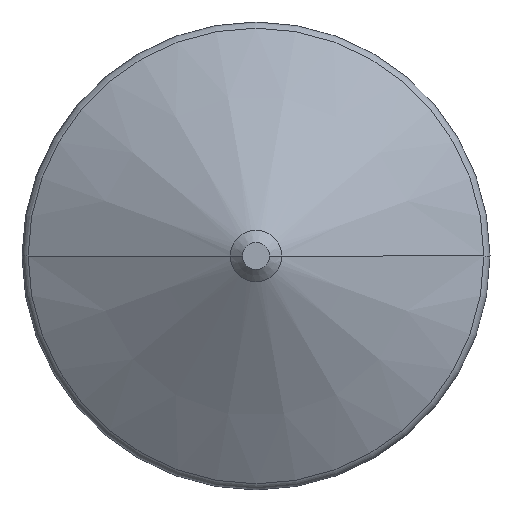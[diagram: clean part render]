
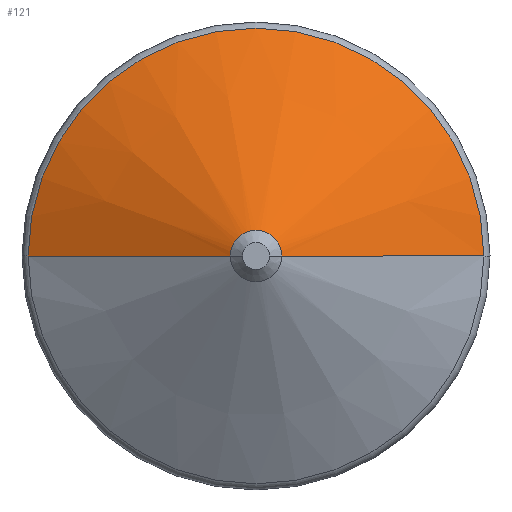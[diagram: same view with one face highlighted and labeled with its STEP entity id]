
A CAD part, front view. The second image highlights one B-rep face of the part: STEP entity #121.
In plain terms, the highlighted conical face has half-angle 60 degrees and reference radius 0.42 mm.
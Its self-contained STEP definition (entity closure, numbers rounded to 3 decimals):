
#15 = DIRECTION ( 'NONE',  ( 0., 1., 0. ) ) ;
#22 = VERTEX_POINT ( 'NONE', #64 ) ;
#28 = CARTESIAN_POINT ( 'NONE',  ( 0., -7.958, 0. ) ) ;
#43 = EDGE_CURVE ( 'NONE', #302, #270, #158, .T. ) ;
#64 = CARTESIAN_POINT ( 'NONE',  ( -3.71, -6.058, 0. ) ) ;
#67 = EDGE_CURVE ( 'NONE', #71, #22, #549, .T. ) ;
#71 = VERTEX_POINT ( 'NONE', #225 ) ;
#81 = AXIS2_PLACEMENT_3D ( 'NONE', #213, #614, #303 ) ;
#118 = CONICAL_SURFACE ( 'NONE', #444, 0.42, 1.047 ) ;
#121 = ADVANCED_FACE ( 'NONE', ( #176 ), #118, .T. ) ;
#127 = LINE ( 'NONE', #436, #422 ) ;
#135 = EDGE_CURVE ( 'NONE', #270, #71, #127, .T. ) ;
#157 = ORIENTED_EDGE ( 'NONE', *, *, #67, .T. ) ;
#158 = CIRCLE ( 'NONE', #389, 0.42 ) ;
#173 = EDGE_CURVE ( 'NONE', #302, #22, #583, .T. ) ;
#176 = FACE_OUTER_BOUND ( 'NONE', #367, .T. ) ;
#213 = CARTESIAN_POINT ( 'NONE',  ( 0., -6.058, 0. ) ) ;
#225 = CARTESIAN_POINT ( 'NONE',  ( 3.71, -6.058, 0. ) ) ;
#227 = CARTESIAN_POINT ( 'NONE',  ( 0., -7.958, 0. ) ) ;
#266 = ORIENTED_EDGE ( 'NONE', *, *, #135, .T. ) ;
#270 = VERTEX_POINT ( 'NONE', #573 ) ;
#287 = DIRECTION ( 'NONE',  ( 0.866, 0.5, 0. ) ) ;
#298 = ORIENTED_EDGE ( 'NONE', *, *, #43, .T. ) ;
#302 = VERTEX_POINT ( 'NONE', #340 ) ;
#303 = DIRECTION ( 'NONE',  ( 1., 0., 0. ) ) ;
#320 = DIRECTION ( 'NONE',  ( -1., 0., 0. ) ) ;
#340 = CARTESIAN_POINT ( 'NONE',  ( -0.42, -7.958, 0. ) ) ;
#367 = EDGE_LOOP ( 'NONE', ( #298, #266, #157, #598 ) ) ;
#370 = DIRECTION ( 'NONE',  ( -1., 0., 0. ) ) ;
#374 = DIRECTION ( 'NONE',  ( 0., 1., 0. ) ) ;
#389 = AXIS2_PLACEMENT_3D ( 'NONE', #28, #15, #320 ) ;
#422 = VECTOR ( 'NONE', #287, 1000. ) ;
#436 = CARTESIAN_POINT ( 'NONE',  ( 0.42, -7.958, 0. ) ) ;
#444 = AXIS2_PLACEMENT_3D ( 'NONE', #227, #374, #370 ) ;
#549 = CIRCLE ( 'NONE', #81, 3.71 ) ;
#573 = CARTESIAN_POINT ( 'NONE',  ( 0.42, -7.958, 0. ) ) ;
#583 = LINE ( 'NONE', #632, #586 ) ;
#586 = VECTOR ( 'NONE', #621, 1000. ) ;
#598 = ORIENTED_EDGE ( 'NONE', *, *, #173, .F. ) ;
#614 = DIRECTION ( 'NONE',  ( 0., -1., 0. ) ) ;
#621 = DIRECTION ( 'NONE',  ( -0.866, 0.5, 0. ) ) ;
#632 = CARTESIAN_POINT ( 'NONE',  ( -0.42, -7.958, 0. ) ) ;
